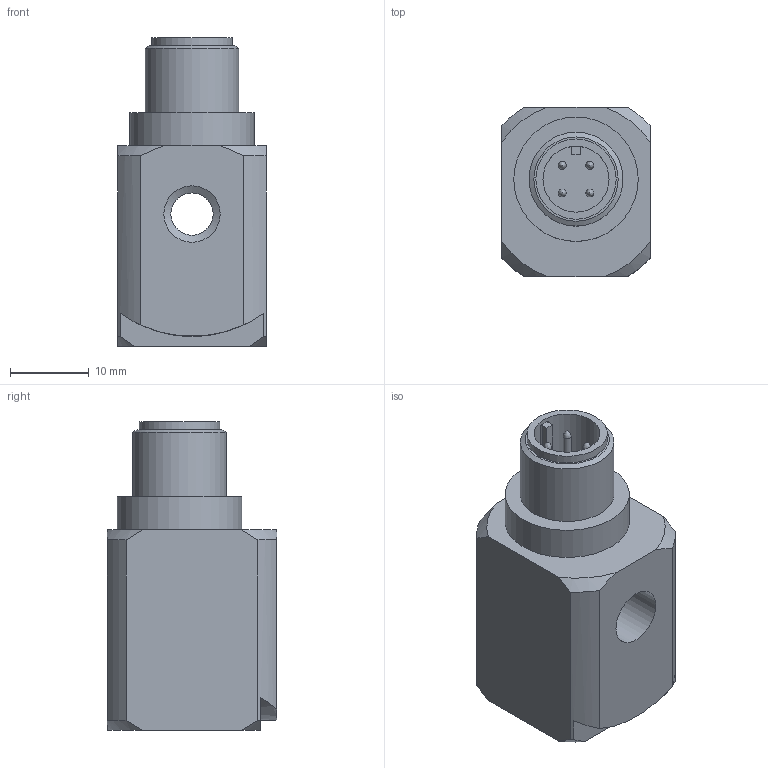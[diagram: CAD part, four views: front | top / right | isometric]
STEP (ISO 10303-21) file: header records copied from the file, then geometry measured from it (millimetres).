
FILE_DESCRIPTION(/* description */ (''),/* implementation_level */ '2;1');
FILE_NAME(/* name */ 'C:\Users\kreumann\Desktop\STEP FILES\602D91\602D91.stp',/* time_stamp */ '2019-08-05T08:07:19-04:00',/* author */ ('kreumann'),/* organization */ (''),/* preprocessor_version */ 'ST-DEVELOPER v17',/* originating_system */ 'Autodesk Inventor 2019',/* authorisation */ '');
FILE_SCHEMA (('AUTOMOTIVE_DESIGN { 1 0 10303 214 3 1 1 }'));
Length unit declared in the file: inch
Products named in the file (1): 602D91 ENVELOPE
Bounding box: 18.8 x 21.46 x 39.12 mm (x, y, z)
Volume: 10344.3 mm3; surface area: 3970.4 mm2
Topology: 1 solids, 1 shells, 48 faces, 133 edges, 92 vertices
Faces by surface type: cylinder 17, plane 16, cone 11, bspline 4
Full cylindrical faces by diameter (mm): 0.991 x4, 5.359 x1, 7.137 x1, 8.357 x1, 10.16 x1, 11.887 x1, 15.748 x1
Entity records: 1764 total; most frequent: CARTESIAN_POINT 416, DIRECTION 269, ORIENTED_EDGE 258, EDGE_CURVE 129, AXIS2_PLACEMENT_3D 113, VERTEX_POINT 92, CIRCLE 68, EDGE_LOOP 59
